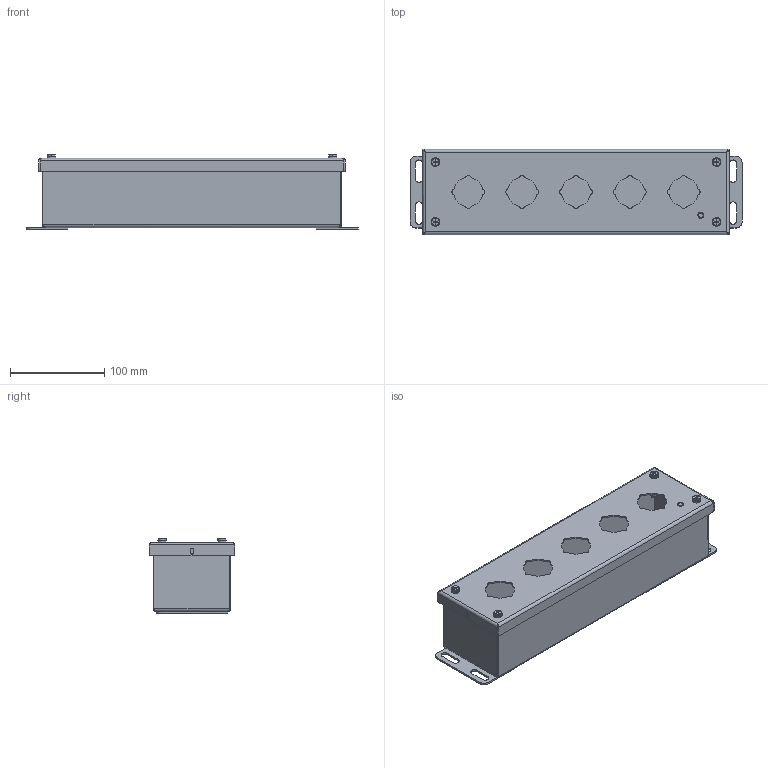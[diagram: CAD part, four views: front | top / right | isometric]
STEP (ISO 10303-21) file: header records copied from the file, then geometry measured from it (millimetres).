
FILE_DESCRIPTION((''),'2;1');
FILE_NAME('MODEL-335_ASM','2025-09-15T08:15:42',('richards'),('SAGINAW CONTROL & ENGINEERING'),'CREO PARAMETRIC BY PTC INC, 2021284','CREO PARAMETRIC BY PTC INC, 2021284','');
FILE_SCHEMA(('AUTOMOTIVE_DESIGN { 1 0 10303 214 1 1 1 1 }'));
Length unit declared in the file: inch
Products named in the file (10): MODEL-335-BDY; MODEL-335-DR; 100063; 102145; 101966; 100009; 100983; 102534; MODEL-335-GSKT; MODEL-335_ASM
Assembly tree (16 placements, depth 2):
  MODEL-335_ASM
    MODEL-335-BDY
    MODEL-335-DR
    100063
    102145  x2
    101966
    100009
    100983  x4
    102534  x4
    MODEL-335-GSKT
Bounding box: 352.43 x 90.49 x 79.34 mm (x, y, z)
Volume: 210576.5 mm3; surface area: 277327 mm2
Topology: 19 solids, 19 shells, 790 faces, 1983 edges, 1178 vertices
Faces by surface type: cylinder 304, plane 278, bspline 100, torus 80, cone 28
Entity records: 23479 total; most frequent: CARTESIAN_POINT 6093, DIRECTION 2531, ORIENTED_EDGE 2414, EDGE_CURVE 1207, PRESENTATION_STYLE_ASSIGNMENT 1119, STYLED_ITEM 1119, CURVE_STYLE 1043, AXIS2_PLACEMENT_3D 937
